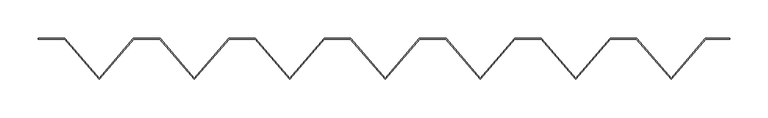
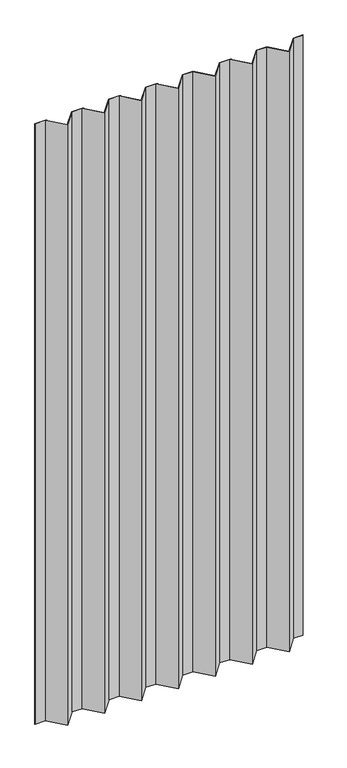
"""IFC4 building model written with IfcOpenShell, lengths in millimetres: plate geometry, HIANSA - H20.F09.008-CHAPA PERFILADA FACHADA VERTICAL - MT53MA7 - Panel de Muro Cortina : -."""

import ifcopenshell
import ifcopenshell.guid

model = None  # the IFC model being written
_history = None  # IfcOwnerHistory: only IFC2X3 demands one
_inside = {}  # id of a spatial element -> (the spatial element, [elements in it])
_under = {}  # id of a project, library or spatial element -> (it, [spatial elements below it])
_declared = {}  # id of a project -> (the project, [libraries it declares])
_typed = {}  # id of a type object -> (the type object, [elements of that type])
_made_of = {}  # id of a material, layer set ... -> (it, [elements and type objects made of it])


def new_model(schema):
    """Start an empty IFC model of exactly this schema.

    Asked for "IFC4X3", IfcOpenShell would pick the latest addendum, in which some entities
    have other attributes; the version numbers below select the first issue.
    IFC2X3 requires an IfcOwnerHistory on every rooted entity: one is made here for all.
    """
    global model, _history
    if schema == "IFC4X3":
        model = ifcopenshell.file(schema_version=(4, 3, 0, 0))
    else:
        model = ifcopenshell.file(schema=schema)
    _inside.clear()
    _under.clear()
    _declared.clear()
    _typed.clear()
    _made_of.clear()
    _history = None
    if model.schema == "IFC2X3":
        org = make("IfcOrganization", Name="unknown")
        user = make(
            "IfcPersonAndOrganization",
            ThePerson=make("IfcPerson", FamilyName="unknown"),
            TheOrganization=org,
        )
        app = make(
            "IfcApplication",
            ApplicationDeveloper=org,
            Version="unknown",
            ApplicationFullName="unknown",
            ApplicationIdentifier="unknown",
        )
        _history = make(
            "IfcOwnerHistory",
            OwningUser=user,
            OwningApplication=app,
            ChangeAction="ADDED",
            CreationDate=0,
        )
    return model


def make(cls, **values):
    """One entity of the class cls with the attributes given. An attribute that is None is left unset."""
    return model.create_entity(
        cls, **{name: value for name, value in values.items() if value is not None}
    )


def rooted(cls, **values):
    """An entity with a GlobalId (a new one), such as an element, a storey or a relation."""
    return make(cls, GlobalId=ifcopenshell.guid.new(), OwnerHistory=_history, **values)


def si_unit(unit_type, name, prefix=None):
    """IfcSIUnit, for example si_unit("LENGTHUNIT", "METRE", prefix="MILLI")."""
    return make("IfcSIUnit", UnitType=unit_type, Prefix=prefix, Name=name)


def assignment(units):
    """IfcUnitAssignment: the units of a project."""
    return None if units is None else make("IfcUnitAssignment", Units=units)


def point(xyz):
    """IfcCartesianPoint."""
    return None if xyz is None else make("IfcCartesianPoint", Coordinates=xyz)


def direction(xyz):
    """IfcDirection."""
    return None if xyz is None else make("IfcDirection", DirectionRatios=xyz)


def frame(location, z_axis=None, x_axis=None):
    """IfcAxis2Placement3D, a coordinate frame: its origin and axes. An axis left out is left unset."""
    return make(
        "IfcAxis2Placement3D",
        Location=point(location),
        Axis=direction(z_axis),
        RefDirection=direction(x_axis),
    )


def origin():
    """The frame at (0, 0, 0) with its axes left unset."""
    return frame((0.0, 0.0, 0.0))


def origin_with_axes():
    """The frame at (0, 0, 0) with the z axis (0, 0, 1) and the x axis (1, 0, 0) written out."""
    return frame((0.0, 0.0, 0.0), z_axis=(0.0, 0.0, 1.0), x_axis=(1.0, 0.0, 0.0))


def place(relative_to, where):
    """IfcLocalPlacement: puts the frame where relative to a parent placement (None: the world)."""
    return make(
        "IfcLocalPlacement", PlacementRelTo=relative_to, RelativePlacement=where
    )


def context(
    kind, dimensions, precision=None, world=None, true_north=None, identifier=None
):
    """IfcGeometricRepresentationContext, for example the 3D "Model" context."""
    return make(
        "IfcGeometricRepresentationContext",
        ContextIdentifier=identifier,
        ContextType=kind,
        CoordinateSpaceDimension=dimensions,
        Precision=precision,
        WorldCoordinateSystem=world,
        TrueNorth=true_north,
    )


def project(units=None, contexts=None):
    """IfcProject with its units and contexts."""
    return rooted(
        "IfcProject",
        Name="project",
        RepresentationContexts=contexts,
        UnitsInContext=assignment(units),
    )


def spatial(cls, under=None, at=None, **own):
    """A site, building, storey or space (cls), placed at a placement, below another one or the project."""
    s = rooted(cls, ObjectPlacement=at, **own)
    if under is not None:
        _under.setdefault(under.id(), (under, []))[1].append(s)
    return s


def polyline(points):
    """IfcPolyline through the points."""
    return make("IfcPolyline", Points=[point(p) for p in points])


def outline(outer, holes=None, kind="AREA"):
    """IfcArbitraryClosedProfileDef: a profile drawn as a closed curve; with holes, ...WithVoids."""
    if holes is None:
        return make("IfcArbitraryClosedProfileDef", ProfileType=kind, OuterCurve=outer)
    return make(
        "IfcArbitraryProfileDefWithVoids",
        ProfileType=kind,
        OuterCurve=outer,
        InnerCurves=holes,
    )


def extrude(swept, where, along, depth):
    """IfcExtrudedAreaSolid: the profile swept, set in the frame where, extruded along a direction by depth."""
    return make(
        "IfcExtrudedAreaSolid",
        SweptArea=swept,
        Position=where,
        ExtrudedDirection=direction(along),
        Depth=depth,
    )


def shape(context_of_items, identifier, shape_type, items):
    """IfcShapeRepresentation: the items that make up one representation, for example the "Body"."""
    return make(
        "IfcShapeRepresentation",
        ContextOfItems=context_of_items,
        RepresentationIdentifier=identifier,
        RepresentationType=shape_type,
        Items=items,
    )


def source(mapping_origin, context_of_items, identifier, shape_type, items):
    """IfcRepresentationMap: a shape defined once, which mapped items show again and again."""
    return make(
        "IfcRepresentationMap",
        MappingOrigin=mapping_origin,
        MappedRepresentation=shape(context_of_items, identifier, shape_type, items),
    )


def transform(
    local_origin,
    x_axis=None,
    y_axis=None,
    z_axis=None,
    scale=None,
    scale2=None,
    scale3=None,
    uniform=True,
):
    """IfcCartesianTransformationOperator3D, or its non-uniform kind. x_axis, y_axis, z_axis: its Axis1, 2, 3."""
    if uniform:
        return make(
            "IfcCartesianTransformationOperator3D",
            Axis1=direction(x_axis),
            Axis2=direction(y_axis),
            LocalOrigin=point(local_origin),
            Scale=scale,
            Axis3=direction(z_axis),
        )
    return make(
        "IfcCartesianTransformationOperator3DnonUniform",
        Axis1=direction(x_axis),
        Axis2=direction(y_axis),
        LocalOrigin=point(local_origin),
        Scale=scale,
        Axis3=direction(z_axis),
        Scale2=scale2,
        Scale3=scale3,
    )


def mapped(mapping_source, mapping_target):
    """IfcMappedItem: shows the shape of a source again, moved by a transform."""
    return make(
        "IfcMappedItem", MappingSource=mapping_source, MappingTarget=mapping_target
    )


def made_of(thing, what):
    """Note that an element or type object is made of a material, layer set ...; save() writes the relation."""
    if what is not None:
        _made_of.setdefault(what.id(), (what, []))[1].append(thing)
    return thing


def element(
    cls,
    number,
    at=None,
    inside=None,
    cuts=None,
    type_object=None,
    material=None,
    context=None,
    identifier="Body",
    shape_type=None,
    held_by="IfcProductDefinitionShape",
    body=None,
    shapes=None,
    **own,
):
    """One element of the class cls, such as IfcWall. Its Tag is "e" and its number.

    at: its placement. inside: the storey or other place that contains it. cuts: it is an
    opening in that element (IfcRelVoidsElement). A single representation is given by context,
    identifier, shape_type and body (its items); several are given by shapes. held_by: the class
    of the entity that holds the representations. save() writes the other relations.
    """
    e = rooted(cls, Tag="e%d" % number, ObjectPlacement=at, **own)
    if body is not None:
        shapes = [shape(context, identifier, shape_type, body)]
    if shapes is not None:
        e.Representation = make(held_by, Representations=shapes)
    if inside is not None:
        _inside.setdefault(inside.id(), (inside, []))[1].append(e)
    if cuts is not None:
        rooted(
            "IfcRelVoidsElement", RelatingBuildingElement=cuts, RelatedOpeningElement=e
        )
    if type_object is not None:
        _typed.setdefault(type_object.id(), (type_object, []))[1].append(e)
    return made_of(e, material)


def aggregate(whole, parts):
    """IfcRelAggregates: a whole, such as a stair, and the parts it consists of."""
    return rooted("IfcRelAggregates", RelatingObject=whole, RelatedObjects=parts)


def save(model, path):
    """Write the relations noted so far, then the file.

    IfcRelAggregates (storeys below a building ...), IfcRelContainedInSpatialStructure (elements
    in a storey), IfcRelDefinesByType, IfcRelAssociatesMaterial and IfcRelDeclares: one each for
    every whole, place, type object, material and project.
    """
    for whole, parts in _under.values():
        aggregate(whole, parts)
    for where, things in _inside.values():
        rooted(
            "IfcRelContainedInSpatialStructure",
            RelatedElements=things,
            RelatingStructure=where,
        )
    for kind, things in _typed.values():
        rooted("IfcRelDefinesByType", RelatedObjects=things, RelatingType=kind)
    for what, things in _made_of.values():
        rooted("IfcRelAssociatesMaterial", RelatedObjects=things, RelatingMaterial=what)
    for by, libraries in _declared.values():
        rooted("IfcRelDeclares", RelatingContext=by, RelatedDefinitions=libraries)
    model.write(path)


def plate_7a3b76ca(model_context):
    return source(origin(), model_context, "Body", "SweptSolid", [
        extrude(outline(polyline([(416.4494021, 0.0), (448.0000002, 0.0), (448.0000002, -0.8), (416.8164673, -0.8), (371.8164673, -53.1067873), (326.8164673, -0.8), (292.8164673, -0.8), (247.8164673, -53.1067873), (202.8164673, -0.8), (168.8164673, -0.8), (123.8164673, -53.1067873), (78.8164673, -0.8), (44.8164673, -0.8), (-0.1835327, -53.1067873), (-45.1835327, -0.8), (-79.1835327, -0.8), (-124.1835327, -53.1067873), (-169.1835327, -0.8), (-203.1835327, -0.8), (-248.1835327, -53.1067873), (-293.1835327, -0.8), (-327.1835327, -0.8), (-372.1835327, -53.1067873), (-417.1835327, -0.8), (-451.1835327, -0.8), (-451.1835327, 0.0), (-416.8164676, 0.0), (-372.1835327, -51.8801207), (-327.5505979, 0.0), (-292.8164676, 0.0), (-248.1835327, -51.8801207), (-203.5505979, 0.0), (-168.8164676, 0.0), (-124.1835327, -51.8801207), (-79.5505979, 0.0), (-44.8164676, 0.0), (-0.1835327, -51.8801207), (44.4494021, 0.0), (79.1835324, 0.0), (123.8164673, -51.8801207), (168.4494021, 0.0), (203.1835324, 0.0), (247.8164673, -51.8801207), (292.4494021, 0.0), (327.1835324, 0.0), (371.8164673, -51.8801207), (416.4494021, 0.0)])), origin_with_axes(), (0.0, 0.0, 1.0), 2128.0),
    ])


if __name__ == "__main__":
    model = new_model("IFC4")
    model_context = context("Model", 3, world=origin())
    ifc_project = project(units=[si_unit("LENGTHUNIT", "METRE", prefix="MILLI")], contexts=[model_context])
    site = spatial("IfcSite", under=ifc_project)
    building = spatial("IfcBuilding", under=site)
    placement = place(None, origin())
    plate_shape = plate_7a3b76ca(model_context)
    element("IfcPlate", 1, ObjectType="HIANSA - H20.F09.008-CHAPA PERFILADA FACHADA VERTICAL - MT53MA7 - Panel de Muro Cortina : -", at=placement, inside=building, context=model_context, shape_type="MappedRepresentation", body=[
        mapped(plate_shape, transform((0.0, 0.0, 0.0), x_axis=(1.0, 0.0, 0.0), y_axis=(0.0, 1.0, 0.0), z_axis=(0.0, 0.0, 1.0))),
    ])
    save(model, "model.ifc")
